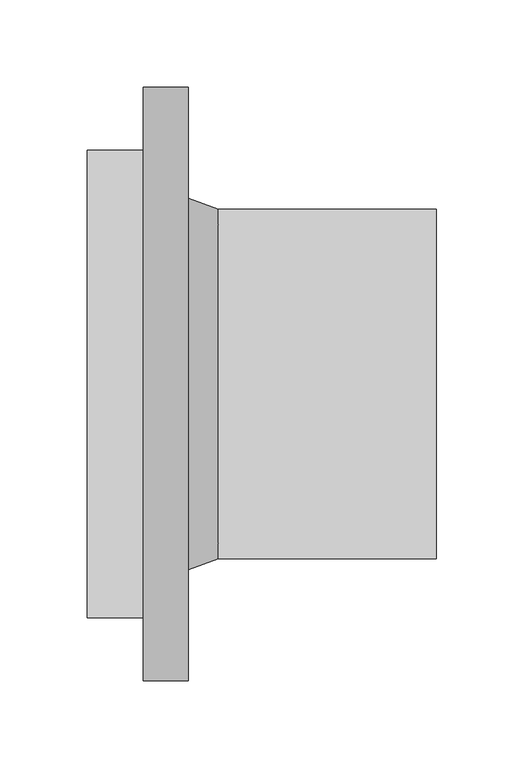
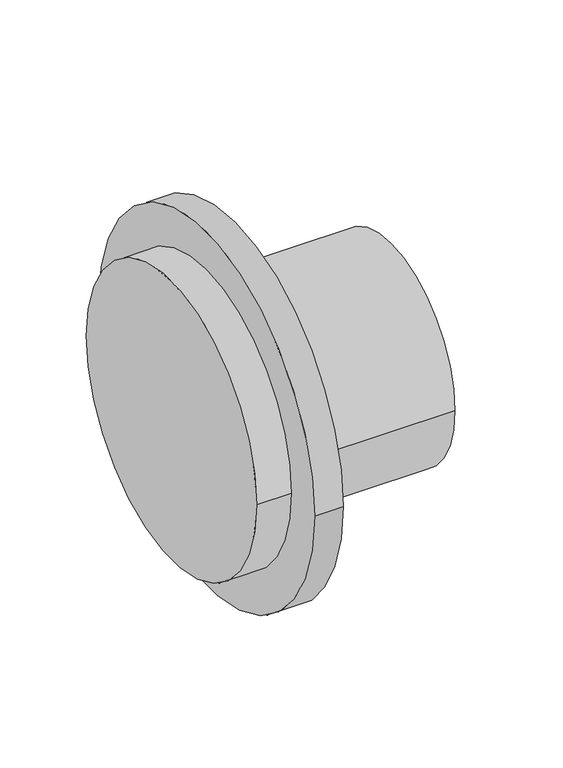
"""IFC4 building model written with IfcOpenShell, lengths in millimetres: pipe fitting geometry, NIRON RED termofusion casquillo con brida SDR 11 : Estándar."""

from ifc_helpers import new_model, si_unit, point, frame, origin, origin_2d, place, context, project, spatial, polyline, circle_curve, trimmed, segment, composite_curve, outline, extrude, source, transform, mapped, element, save
from ifc_brep_helpers import plane_surface, revolved_surface, advanced_brep


def pipe_fitting_de200927(model_context):
    return source(origin(), model_context, "Body", "SolidModel", [
        extrude(outline(composite_curve([segment(trimmed(circle_curve(origin_2d(), 170.0), [point((170.0, 0.0))], [point((-170.0, 0.0))], False, "CARTESIAN"), True, "CONTINUOUS"), segment(trimmed(circle_curve(origin_2d(), 170.0), [point((-170.0, 0.0))], [point((170.0, 0.0))], False, "CARTESIAN"), True, "CONTINUOUS")], self_intersect=False), holes=[composite_curve([segment(trimmed(circle_curve(origin_2d(), 119.0), [point((119.0, 0.0))], [point((-119.0, 0.0))], True, "CARTESIAN"), True, "CONTINUOUS"), segment(trimmed(circle_curve(origin_2d(), 119.0), [point((-119.0, 0.0))], [point((119.0, 0.0))], True, "CARTESIAN"), True, "CONTINUOUS")], self_intersect=False)]), frame((32.0, 0.0, 0.0), z_axis=(1.0, 0.0, 0.0), x_axis=(0.0, 1.0, 0.0)), (0.0, 0.0, 1.0), 26.0),
        extrude(outline(composite_curve([segment(trimmed(circle_curve(origin_2d(), 100.0), [point((-100.0, 0.0))], [point((100.0, 0.0))], False, "CARTESIAN"), True, "CONTINUOUS"), segment(trimmed(circle_curve(origin_2d(), 100.0), [point((100.0, 0.0))], [point((-100.0, 0.0))], False, "CARTESIAN"), True, "CONTINUOUS")], self_intersect=False)), frame((75.0, 0.0, 0.0), z_axis=(1.0, 0.0, 0.0), x_axis=(0.0, 1.0, 0.0)), (0.0, 0.0, 1.0), 125.0),
        advanced_brep(
        [(75.0, -100.0, 0.0), (75.0, 100.0, 0.0), (32.0, -116.0, 0.0), (32.0, 116.0, 0.0)],
        [
            (0, 1, circle_curve(frame((75.0, 0.0, 0.0), z_axis=(1.0, 0.0, 0.0), x_axis=(0.0, -1.0, 0.0)), 100.0)),
            (1, 0, circle_curve(frame((75.0, 0.0, 0.0), z_axis=(1.0, 0.0, 0.0), x_axis=(0.0, 1.0, 0.0)), 100.0)),
            (2, 3, circle_curve(frame((32.0, 0.0, 0.0), z_axis=(-1.0, 0.0, 0.0), x_axis=(0.0, 1.0, 0.0)), 116.0)),
            (3, 2, circle_curve(frame((32.0, 0.0, 0.0), z_axis=(-1.0, 0.0, 0.0), x_axis=(0.0, -1.0, 0.0)), 116.0)),
            (3, 1),
            (0, 2),
        ],
        [
            plane_surface(frame((75.0, 0.0, 0.0), z_axis=(1.0, 0.0, 0.0), x_axis=(0.0, 0.0, -1.0))),
            plane_surface(frame((32.0, 0.0, 0.0), z_axis=(-1.0, 0.0, 0.0), x_axis=(0.0, 0.0, -1.0))),
            revolved_surface(polyline([(75.0, -100.0, 0.0), (32.0, -116.0, 0.0)]), (343.75, 0.0, 0.0), (-1.0, 0.0, 0.0)),
            revolved_surface(polyline([(75.0, 100.0, 0.0), (32.0, 116.0, 0.0)]), (343.75, 0.0, 0.0), (-1.0, 0.0, 0.0)),
        ],
        [
            (0, [[1, 2]]),
            (1, [[3, 4]]),
            (2, [[-4, 5, -1, 6]]),
            (3, [[-3, -6, -2, -5]]),
        ],
    ),
        extrude(outline(composite_curve([segment(trimmed(circle_curve(origin_2d(), 134.0), [point((-134.0, 0.0))], [point((134.0, 0.0))], False, "CARTESIAN"), True, "CONTINUOUS"), segment(trimmed(circle_curve(origin_2d(), 134.0), [point((134.0, 0.0))], [point((-134.0, 0.0))], False, "CARTESIAN"), True, "CONTINUOUS")], self_intersect=False)), frame((0.0, 0.0, 0.0), z_axis=(1.0, 0.0, 0.0), x_axis=(0.0, 1.0, 0.0)), (0.0, 0.0, 1.0), 32.0),
    ])


if __name__ == "__main__":
    model = new_model("IFC4")
    model_context = context("Model", 3, world=origin())
    ifc_project = project(units=[si_unit("LENGTHUNIT", "METRE", prefix="MILLI")], contexts=[model_context])
    site = spatial("IfcSite", under=ifc_project)
    building = spatial("IfcBuilding", under=site)
    placement = place(None, origin())
    pipe_fitting_shape = pipe_fitting_de200927(model_context)
    element("IfcPipeFitting", 1, ObjectType="NIRON RED termofusion casquillo con brida SDR 11 : Estándar", at=placement, inside=building, context=model_context, shape_type="MappedRepresentation", body=[
        mapped(pipe_fitting_shape, transform((0.0, 0.0, 0.0), x_axis=(1.0, 0.0, 0.0), y_axis=(0.0, 1.0, 0.0), z_axis=(0.0, 0.0, 1.0))),
    ])
    save(model, "model.ifc")
